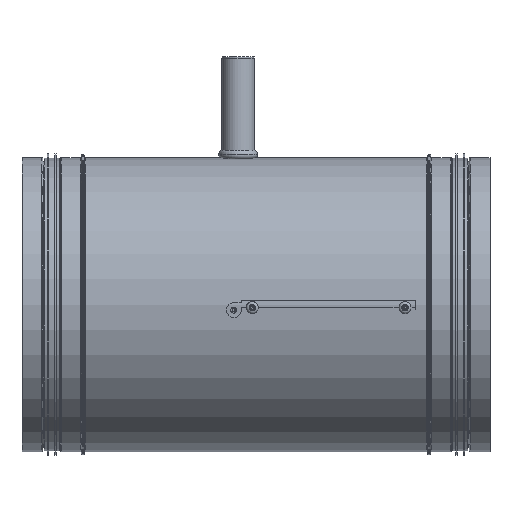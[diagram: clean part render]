
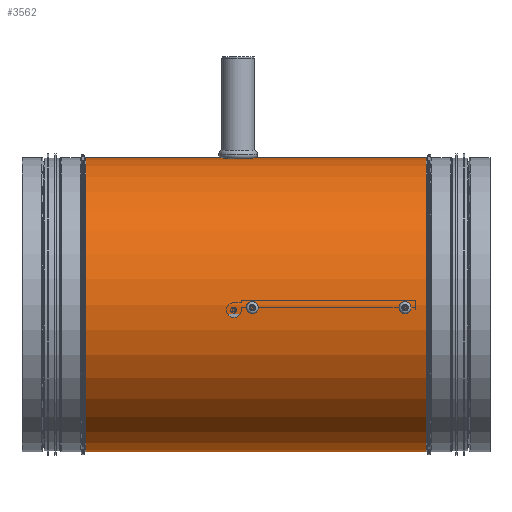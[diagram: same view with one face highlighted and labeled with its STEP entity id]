
A CAD part, left-side view. The second image highlights one B-rep face of the part: STEP entity #3562.
In plain terms, the highlighted cylindrical face has radius 99 mm (diameter 198 mm), a full revolution.
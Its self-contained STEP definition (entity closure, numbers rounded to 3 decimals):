
#104=CYLINDRICAL_SURFACE('',#4049,99.);
#303=FACE_OUTER_BOUND('',#549,.T.);
#549=EDGE_LOOP('',(#2720,#2721,#2722,#2723));
#813=CIRCLE('',#4048,99.);
#814=CIRCLE('',#4050,99.);
#972=LINE('',#5683,#1232);
#1037=LINE('',#5878,#1297);
#1232=VECTOR('',#4420,10.);
#1297=VECTOR('',#4613,10.);
#1492=VERTEX_POINT('',#5676);
#1494=VERTEX_POINT('',#5682);
#1558=VERTEX_POINT('',#5871);
#1560=VERTEX_POINT('',#5877);
#1796=EDGE_CURVE('',#1494,#1492,#972,.T.);
#1893=EDGE_CURVE('',#1558,#1560,#1037,.T.);
#1996=EDGE_CURVE('',#1558,#1494,#813,.T.);
#1997=EDGE_CURVE('',#1560,#1492,#814,.T.);
#2720=ORIENTED_EDGE('',*,*,#1796,.T.);
#2721=ORIENTED_EDGE('',*,*,#1997,.F.);
#2722=ORIENTED_EDGE('',*,*,#1893,.F.);
#2723=ORIENTED_EDGE('',*,*,#1996,.T.);
#3562=ADVANCED_FACE('',(#303),#104,.T.);
#4048=AXIS2_PLACEMENT_3D('',#6081,#4911,#4912);
#4049=AXIS2_PLACEMENT_3D('',#6082,#4913,#4914);
#4050=AXIS2_PLACEMENT_3D('',#6083,#4915,#4916);
#4420=DIRECTION('',(0.,0.,-1.));
#4613=DIRECTION('',(0.,0.,-1.));
#4911=DIRECTION('center_axis',(0.,0.,-1.));
#4912=DIRECTION('ref_axis',(1.,0.,0.));
#4913=DIRECTION('center_axis',(0.,0.,-1.));
#4914=DIRECTION('ref_axis',(-1.,0.,0.));
#4915=DIRECTION('center_axis',(0.,0.,-1.));
#4916=DIRECTION('ref_axis',(1.,0.,0.));
#5676=CARTESIAN_POINT('',(99.,0.017,-114.75));
#5682=CARTESIAN_POINT('',(99.,0.017,114.75));
#5683=CARTESIAN_POINT('',(99.,0.017,0.));
#5871=CARTESIAN_POINT('',(99.,0.,114.75));
#5877=CARTESIAN_POINT('',(99.,0.,-114.75));
#5878=CARTESIAN_POINT('',(99.,0.,114.75));
#6081=CARTESIAN_POINT('Origin',(0.,0.,114.75));
#6082=CARTESIAN_POINT('Origin',(0.,0.,0.));
#6083=CARTESIAN_POINT('Origin',(0.,0.,-114.75));
